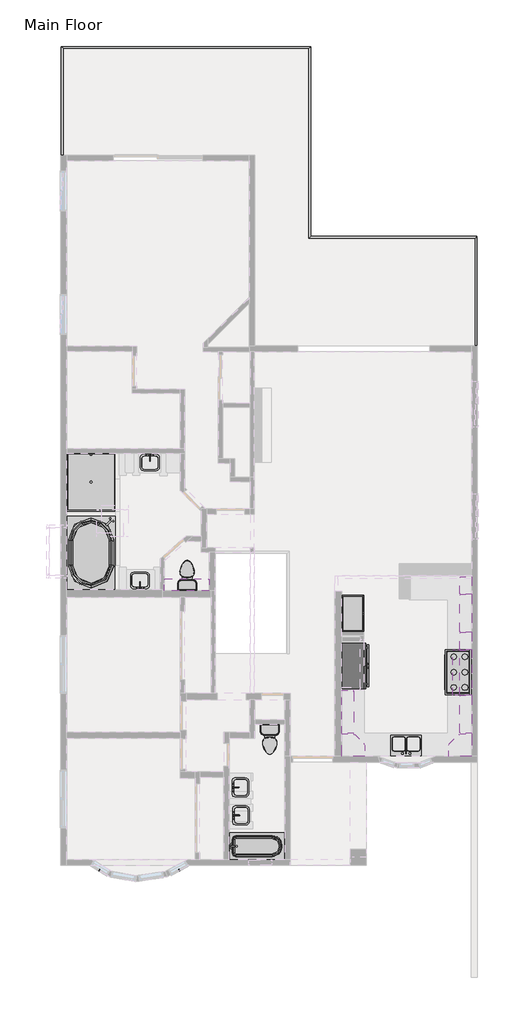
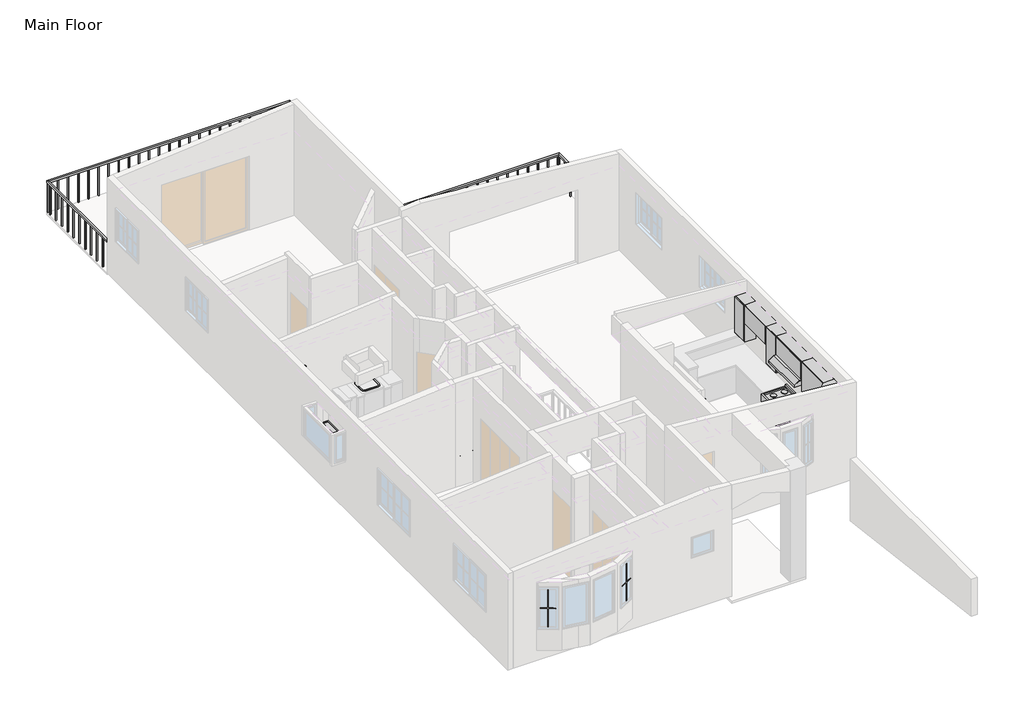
# One storey, part 4 of 5: 11 flow terminals, 10 furniture elements, 5 proxies, 1 railing.
"""IFC4 building model written with IfcOpenShell, lengths in millimetres."""

from ifc_helpers import new_model, si_unit, origin, origin_with_axes, place, context, project, spatial, polyline, outline, extrude, faceted_brep, transform, mapped, element, save
from components import exhaust_hood_default_1_8daebe1e, fridge_default_1_27ad7765, muntin_pattern_2x2_muntin_pattern_2x2_2ad6a7fc, stove_6_default_1_31393170, flow_terminal_2d_kitchen_double_sink_default_1_5e0e203f, bath_shower_basin_rectangular_default_1_6c549e84, bath_basin_do_not_use_500_x_440mm_22030706, bath_bathtub_default_1_2fc18997, bath_bathtub_angled_default_1_0dda685f, default_1_a9700879, toilet_default_1_5cb52bd4, toilet_default_1_183bbd19, tall_cabinet_double_door_4_default_1_8bce80c1, furniture_4d8b9883, furniture_f7997885, furniture_770a82d7, furniture_cde854b6, furniture_117c79e4, furniture_55d4882b, furniture_75251511, furniture_355480a0

model = new_model("IFC4")

# Units and contexts
model_context = context("Model", 3, world=origin())
ifc_project = project(units=[si_unit("LENGTHUNIT", "METRE", prefix="MILLI")], contexts=[model_context])

# Site, building, storey
site = spatial("IfcSite", under=ifc_project)
building = spatial("IfcBuilding", under=site)
storey = spatial("IfcBuildingStorey", under=building, Name="Main Floor", Elevation=0.0)

# Proxies
placement = place(None, origin())
exhaust_hood_default_1_shape = exhaust_hood_default_1_8daebe1e(model_context)
element("IfcBuildingElementProxy", 1, Name="Exhaust Hood : Default 1", ObjectType="Exhaust Hood : Default 1", at=placement, inside=storey, context=model_context, shape_type="MappedRepresentation", body=[
    mapped(exhaust_hood_default_1_shape, transform((5068.1259945, -3335.6139357, -381.0), x_axis=(-1.0, 0.0, 0.0), y_axis=(0.0, -1.0, 0.0), z_axis=(0.0, 0.0, 1.0))),
])
fridge_default_1_shape = fridge_default_1_27ad7765(model_context)
element("IfcBuildingElementProxy", 2, Name="Fridge : Default 1", ObjectType="Fridge : Default 1", at=placement, inside=storey, context=model_context, shape_type="MappedRepresentation", body=[
    mapped(fridge_default_1_shape, transform((1523.1244069, -3760.4938544, 0.0), x_axis=(0.0, 1.0, 0.0), y_axis=(-1.0, 0.0, 0.0), z_axis=(0.0, 0.0, 1.0))),
])
muntin_pattern_2x2_muntin_pattern_2x2_shape = muntin_pattern_2x2_muntin_pattern_2x2_2ad6a7fc(model_context)
element("IfcBuildingElementProxy", 3, Name="Muntin Pattern_2x2 : Muntin Pattern_2x2", ObjectType="Muntin Pattern_2x2 : Muntin Pattern_2x2", at=placement, inside=storey, context=model_context, shape_type="MappedRepresentation", body=[
    mapped(muntin_pattern_2x2_muntin_pattern_2x2_shape, transform((-4822.8145112, -9183.7290767, 984.25), x_axis=(-0.8527544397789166, 0.5223120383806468, 0.0), y_axis=(-0.5223120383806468, -0.8527544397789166, 0.0), z_axis=(0.0, 0.0, 1.0))),
])
element("IfcBuildingElementProxy", 4, Name="Muntin Pattern_2x2 : Muntin Pattern_2x2", ObjectType="Muntin Pattern_2x2 : Muntin Pattern_2x2", at=placement, inside=storey, context=model_context, shape_type="MappedRepresentation", body=[
    mapped(muntin_pattern_2x2_muntin_pattern_2x2_shape, transform((-2700.9751957, -9181.5585861, 984.25), x_axis=(-0.8804710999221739, -0.47409982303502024, 0.0), y_axis=(0.47409982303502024, -0.8804710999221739, 0.0), z_axis=(0.0, 0.0, 1.0))),
])
stove_6_default_1_shape = stove_6_default_1_31393170(model_context)
element("IfcBuildingElementProxy", 5, Name="Stove_6 : Default 1", ObjectType="Stove_6 : Default 1", at=placement, inside=storey, context=model_context, shape_type="MappedRepresentation", body=[
    mapped(stove_6_default_1_shape, transform((5060.8244069, -3783.7438544, 0.0), x_axis=(0.0, -1.0, 0.0), y_axis=(1.0, 0.0, 0.0), z_axis=(0.0, 0.0, 1.0))),
])

# Flow terminals
flow_terminal_2d_kitchen_double_sink_default_1_shape = flow_terminal_2d_kitchen_double_sink_default_1_5e0e203f(model_context)
element("IfcFlowTerminal", 6, ObjectType="2D Kitchen-Double Sink : Default 1", at=placement, inside=storey, context=model_context, shape_type="MappedRepresentation", body=[
    mapped(flow_terminal_2d_kitchen_double_sink_default_1_shape, transform((3341.3337898, -5870.2984533, 152.4), x_axis=(-1.0, 0.0, 0.0), y_axis=(0.0, -1.0, 0.0), z_axis=(0.0, 0.0, 1.0))),
])
bath_shower_basin_rectangular_default_1_shape = bath_shower_basin_rectangular_default_1_6c549e84(model_context)
element("IfcFlowTerminal", 7, ObjectType="Bath- Shower - Basin Rectangular : Default 1", at=placement, inside=storey, context=model_context, shape_type="MappedRepresentation", body=[
    mapped(bath_shower_basin_rectangular_default_1_shape, transform((-5042.3755931, 1122.0561456, 0.0), x_axis=(1.0, 0.0, 0.0), y_axis=(0.0, 1.0, 0.0), z_axis=(0.0, 0.0, 1.0))),
])
bath_basin_do_not_use_500_x_440mm_shape = bath_basin_do_not_use_500_x_440mm_22030706(model_context)
element("IfcFlowTerminal", 8, ObjectType="Bath-Basin DO NOT USE : 500 x 440mm", at=placement, inside=storey, context=model_context, shape_type="MappedRepresentation", body=[
    mapped(bath_basin_do_not_use_500_x_440mm_shape, transform((-3728.1113526, -1528.6484533, 152.4), x_axis=(-1.0, 0.0, 0.0), y_axis=(0.0, -1.0, 0.0), z_axis=(0.0, 0.0, 1.0))),
])
element("IfcFlowTerminal", 9, ObjectType="Bath-Basin DO NOT USE : 500 x 440mm", at=placement, inside=storey, context=model_context, shape_type="MappedRepresentation", body=[
    mapped(bath_basin_do_not_use_500_x_440mm_shape, transform((-3495.5148337, 1678.6710886, 152.4), x_axis=(1.0, 0.0, 0.0), y_axis=(0.0, 1.0, 0.0), z_axis=(0.0, 0.0, 1.0))),
])
element("IfcFlowTerminal", 10, ObjectType="Bath-Basin DO NOT USE : 500 x 440mm", at=placement, inside=storey, context=model_context, shape_type="MappedRepresentation", body=[
    mapped(bath_basin_do_not_use_500_x_440mm_shape, transform((-1097.794848, -7743.9999031, 152.4), x_axis=(0.0, 1.0, 0.0), y_axis=(-1.0, 0.0, 0.0), z_axis=(0.0, 0.0, 1.0))),
])
element("IfcFlowTerminal", 11, ObjectType="Bath-Basin DO NOT USE : 500 x 440mm", at=placement, inside=storey, context=model_context, shape_type="MappedRepresentation", body=[
    mapped(bath_basin_do_not_use_500_x_440mm_shape, transform((-1114.8301921, -7002.2830949, 152.4), x_axis=(0.0, 1.0, 0.0), y_axis=(-1.0, 0.0, 0.0), z_axis=(0.0, 0.0, 1.0))),
])
bath_bathtub_default_1_shape = bath_bathtub_default_1_2fc18997(model_context)
element("IfcFlowTerminal", 12, ObjectType="Bath-Bathtub : Default 1", at=placement, inside=storey, context=model_context, shape_type="MappedRepresentation", body=[
    mapped(bath_bathtub_default_1_shape, transform((-261.671823, -8978.5938544, 0.0), x_axis=(1.0, 0.0, 0.0), y_axis=(0.0, 1.0, 0.0), z_axis=(0.0, 0.0, 1.0))),
])
bath_bathtub_angled_default_1_shape = bath_bathtub_angled_default_1_0dda685f(model_context)
element("IfcFlowTerminal", 13, ObjectType="Bath-Bathtub Angled : Default 1", at=placement, inside=storey, context=model_context, shape_type="MappedRepresentation", body=[
    mapped(bath_bathtub_angled_default_1_shape, transform((-5042.3755931, -758.8120538, 0.0), x_axis=(1.0, 0.0, 0.0), y_axis=(0.0, 1.0, 0.0), z_axis=(0.0, 0.0, 1.0))),
])
default_1_shape = default_1_a9700879(model_context)
element("IfcFlowTerminal", 14, ObjectType="Bath-Showerhead : Default 1", at=placement, inside=storey, context=model_context, shape_type="MappedRepresentation", body=[
    mapped(default_1_shape, transform((-5042.3755931, 1892.6061456, 0.0), x_axis=(1.0, 0.0, 0.0), y_axis=(0.0, 1.0, 0.0), z_axis=(0.0, 0.0, 1.0))),
])
toilet_default_1_shape = toilet_default_1_5cb52bd4(model_context)
toilet_default_1_2_shape = toilet_default_1_183bbd19(model_context)
element("IfcFlowTerminal", 15, ObjectType="Toilet : Default 1", at=placement, inside=storey, context=model_context, shape_type="MappedRepresentation", body=[
    mapped(toilet_default_1_shape, transform((-2490.6755931, -1264.297827, 0.0), x_axis=(-1.0, 0.0, 0.0), y_axis=(0.0, -1.0, 0.0), z_axis=(0.0, 0.0, 1.0))),
    mapped(toilet_default_1_2_shape, transform((-2490.6755931, -1264.297827, 0.0), x_axis=(-1.0, 0.0, 0.0), y_axis=(0.0, -1.0, 0.0), z_axis=(0.0, 0.0, 1.0))),
])
element("IfcFlowTerminal", 16, ObjectType="Toilet : Default 1", at=placement, inside=storey, context=model_context, shape_type="MappedRepresentation", body=[
    mapped(toilet_default_1_shape, transform((-296.1505931, -5802.9898817, 0.0), x_axis=(1.0, 0.0, 0.0), y_axis=(0.0, 1.0, 0.0), z_axis=(0.0, 0.0, 1.0))),
    mapped(toilet_default_1_2_shape, transform((-296.1505931, -5802.9898817, 0.0), x_axis=(1.0, 0.0, 0.0), y_axis=(0.0, 1.0, 0.0), z_axis=(0.0, 0.0, 1.0))),
])

# Furniture
tall_cabinet_double_door_4_default_1_shape = tall_cabinet_double_door_4_default_1_8bce80c1(model_context)
element("IfcFurniture", 17, ObjectType="Tall Cabinet-Double Door(4) : Default 1", at=placement, inside=storey, context=model_context, shape_type="MappedRepresentation", body=[
    mapped(tall_cabinet_double_door_4_default_1_shape, transform((1618.3744069, -2386.9815593, 0.0), x_axis=(0.0, 1.0, 0.0), y_axis=(-1.0, 0.0, 0.0), z_axis=(0.0, 0.0, 1.0))),
])
furniture_shape = furniture_4d8b9883(model_context)
element("IfcFurniture", 18, ObjectType="Upper Cabinet-Corner Unit-Wall : 12\" Depth", at=placement, inside=storey, context=model_context, shape_type="MappedRepresentation", body=[
    mapped(furniture_shape, transform((1664.8032441, -6241.7438544, 304.8), x_axis=(1.0, 0.0, 0.0), y_axis=(0.0, 1.0, 0.0), z_axis=(0.0, 0.0, 1.0))),
])
furniture_2_shape = furniture_f7997885(model_context)
element("IfcFurniture", 19, ObjectType="Upper Cabinet-Corner Unit-Wall : 12\" Depth", at=placement, inside=storey, context=model_context, shape_type="MappedRepresentation", body=[
    mapped(furniture_2_shape, transform((5019.9955697, -6241.7438544, 304.8), x_axis=(-1.0, 0.0, 0.0), y_axis=(0.0, -1.0, 0.0), z_axis=(0.0, 0.0, 1.0))),
])
furniture_3_shape = furniture_770a82d7(model_context)
element("IfcFurniture", 20, ObjectType="Upper Cabinet-Single Door-Wall : 24\"", at=placement, inside=storey, context=model_context, shape_type="MappedRepresentation", body=[
    mapped(furniture_3_shape, transform((1523.1244069, -5294.0385817, 0.0), x_axis=(0.0, -1.0, 0.0), y_axis=(1.0, 0.0, 0.0), z_axis=(0.0, 0.0, 1.0))),
])
furniture_4_shape = furniture_cde854b6(model_context)
element("IfcFurniture", 21, ObjectType="Upper Cabinet-Single Door-Wall : 24\"", at=placement, inside=storey, context=model_context, shape_type="MappedRepresentation", body=[
    mapped(furniture_4_shape, transform((5142.6244069, -4800.697332, 304.8), x_axis=(0.0, 1.0, 0.0), y_axis=(-1.0, 0.0, 0.0), z_axis=(0.0, 0.0, 1.0))),
])
furniture_5_shape = furniture_117c79e4(model_context)
element("IfcFurniture", 22, ObjectType="Upper Cabinet-Single Door-Wall : 24\"", at=placement, inside=storey, context=model_context, shape_type="MappedRepresentation", body=[
    mapped(furniture_5_shape, transform((5142.6244069, -3127.6920579, 304.8), x_axis=(0.0, 1.0, 0.0), y_axis=(-1.0, 0.0, 0.0), z_axis=(0.0, 0.0, 1.0))),
])
element("IfcFurniture", 23, ObjectType="Upper Cabinet-Single Door-Wall : 24\"", at=placement, inside=storey, context=model_context, shape_type="MappedRepresentation", body=[
    mapped(furniture_5_shape, transform((5142.6244069, -1653.6983079, 304.8), x_axis=(0.0, 1.0, 0.0), y_axis=(-1.0, 0.0, 0.0), z_axis=(0.0, 0.0, 1.0))),
])
furniture_6_shape = furniture_55d4882b(model_context)
element("IfcFurniture", 24, ObjectType="Upper Cabinet-Single Door-Wall : 24\"", at=placement, inside=storey, context=model_context, shape_type="MappedRepresentation", body=[
    mapped(furniture_6_shape, transform((5142.6244069, -3597.0069838, 304.8), x_axis=(0.0, 1.0, 0.0), y_axis=(-1.0, 0.0, 0.0), z_axis=(0.0, 0.0, 1.0))),
])
furniture_7_shape = furniture_75251511(model_context)
element("IfcFurniture", 25, ObjectType="Upper Cabinet-Single Door-Wall : 24\"", at=placement, inside=storey, context=model_context, shape_type="MappedRepresentation", body=[
    mapped(furniture_7_shape, transform((5142.6244069, -2118.0420579, 304.8), x_axis=(0.0, 1.0, 0.0), y_axis=(-1.0, 0.0, 0.0), z_axis=(0.0, 0.0, 1.0))),
])
furniture_8_shape = furniture_355480a0(model_context)
element("IfcFurniture", 26, ObjectType="Upper Cabinet-Single Door-Wall : 9\"", at=placement, inside=storey, context=model_context, shape_type="MappedRepresentation", body=[
    mapped(furniture_8_shape, transform((-2164.4267547, -1847.5438544, 0.0), x_axis=(1.0, 0.0, 0.0), y_axis=(0.0, 1.0, 0.0), z_axis=(0.0, 0.0, 1.0))),
])

# Railing
element("IfcRailing", 27, ObjectType="900mm Rectangular", at=placement, inside=storey, context=model_context, shape_type="SolidModel", body=[
    faceted_brep([(-5829.7755931, 9804.7061456, 900.0), (-5829.7755931, 9804.7061456, 850.0), (-5779.7755931, 9804.7061456, 850.0), (-5779.7755931, 9804.7061456, 900.0), (5205.7244069, 4737.4061456, 900.0), (5155.7244069, 4737.4061456, 900.0), (5155.7244069, 4737.4061456, 850.0), (5205.7244069, 4737.4061456, 850.0), (-5829.7755931, 12687.2061456, 900.0), (-5829.7755931, 12687.2061456, 850.0), (-5779.7755931, 12637.2061456, 850.0), (-5779.7755931, 12637.2061456, 900.0), (786.1244069, 12687.2061456, 900.0), (786.1244069, 12687.2061456, 850.0), (736.1244069, 12637.2061456, 850.0), (736.1244069, 12637.2061456, 900.0), (786.1244069, 7645.3061456, 900.0), (786.1244069, 7645.3061456, 850.0), (736.1244069, 7595.3061456, 850.0), (736.1244069, 7595.3061456, 900.0), (5205.7244069, 7645.3061456, 900.0), (5205.7244069, 7645.3061456, 850.0), (5155.7244069, 7595.3061456, 850.0), (5155.7244069, 7595.3061456, 900.0)], [[[0, 1, 2, 3]], [[4, 5, 6, 7]], [[1, 0, 8, 9]], [[2, 1, 9, 10]], [[3, 2, 10, 11]], [[0, 3, 11, 8]], [[9, 8, 12, 13]], [[10, 9, 13, 14]], [[11, 10, 14, 15]], [[8, 11, 15, 12]], [[13, 12, 16, 17]], [[14, 13, 17, 18]], [[15, 14, 18, 19]], [[12, 15, 19, 16]], [[17, 16, 20, 21]], [[18, 17, 21, 22]], [[19, 18, 22, 23]], [[16, 19, 23, 20]], [[21, 20, 4, 7]], [[22, 21, 7, 6]], [[23, 22, 6, 5]], [[20, 23, 5, 4]]]),
    extrude(outline(polyline([(5168.2244069, 4882.8061456), (5193.2244069, 4882.8061456), (5193.2244069, 4857.8061456), (5168.2244069, 4857.8061456), (5168.2244069, 4882.8061456)])), origin_with_axes(), (0.0, 0.0, 1.0), 850.0),
    extrude(outline(polyline([(5168.2244069, 5157.8061456), (5193.2244069, 5157.8061456), (5193.2244069, 5132.8061456), (5168.2244069, 5132.8061456), (5168.2244069, 5157.8061456)])), origin_with_axes(), (0.0, 0.0, 1.0), 850.0),
    extrude(outline(polyline([(5168.2244069, 5432.8061456), (5193.2244069, 5432.8061456), (5193.2244069, 5407.8061456), (5168.2244069, 5407.8061456), (5168.2244069, 5432.8061456)])), origin_with_axes(), (0.0, 0.0, 1.0), 850.0),
    extrude(outline(polyline([(5168.2244069, 5707.8061456), (5193.2244069, 5707.8061456), (5193.2244069, 5682.8061456), (5168.2244069, 5682.8061456), (5168.2244069, 5707.8061456)])), origin_with_axes(), (0.0, 0.0, 1.0), 850.0),
    extrude(outline(polyline([(5168.2244069, 5982.8061456), (5193.2244069, 5982.8061456), (5193.2244069, 5957.8061456), (5168.2244069, 5957.8061456), (5168.2244069, 5982.8061456)])), origin_with_axes(), (0.0, 0.0, 1.0), 850.0),
    extrude(outline(polyline([(5168.2244069, 6257.8061456), (5193.2244069, 6257.8061456), (5193.2244069, 6232.8061456), (5168.2244069, 6232.8061456), (5168.2244069, 6257.8061456)])), origin_with_axes(), (0.0, 0.0, 1.0), 850.0),
    extrude(outline(polyline([(5168.2244069, 6532.8061456), (5193.2244069, 6532.8061456), (5193.2244069, 6507.8061456), (5168.2244069, 6507.8061456), (5168.2244069, 6532.8061456)])), origin_with_axes(), (0.0, 0.0, 1.0), 850.0),
    extrude(outline(polyline([(5168.2244069, 6807.8061456), (5193.2244069, 6807.8061456), (5193.2244069, 6782.8061456), (5168.2244069, 6782.8061456), (5168.2244069, 6807.8061456)])), origin_with_axes(), (0.0, 0.0, 1.0), 850.0),
    extrude(outline(polyline([(5168.2244069, 7082.8061456), (5193.2244069, 7082.8061456), (5193.2244069, 7057.8061456), (5168.2244069, 7057.8061456), (5168.2244069, 7082.8061456)])), origin_with_axes(), (0.0, 0.0, 1.0), 850.0),
    extrude(outline(polyline([(5168.2244069, 7357.8061456), (5193.2244069, 7357.8061456), (5193.2244069, 7332.8061456), (5168.2244069, 7332.8061456), (5168.2244069, 7357.8061456)])), origin_with_axes(), (0.0, 0.0, 1.0), 850.0),
    extrude(outline(polyline([(5148.6244069, 7607.8061456), (5148.6244069, 7632.8061456), (5173.6244069, 7632.8061456), (5173.6244069, 7607.8061456), (5148.6244069, 7607.8061456)])), origin_with_axes(), (0.0, 0.0, 1.0), 850.0),
    extrude(outline(polyline([(4873.6244069, 7607.8061456), (4873.6244069, 7632.8061456), (4898.6244069, 7632.8061456), (4898.6244069, 7607.8061456), (4873.6244069, 7607.8061456)])), origin_with_axes(), (0.0, 0.0, 1.0), 850.0),
    extrude(outline(polyline([(4598.6244069, 7607.8061456), (4598.6244069, 7632.8061456), (4623.6244069, 7632.8061456), (4623.6244069, 7607.8061456), (4598.6244069, 7607.8061456)])), origin_with_axes(), (0.0, 0.0, 1.0), 850.0),
    extrude(outline(polyline([(4323.6244069, 7607.8061456), (4323.6244069, 7632.8061456), (4348.6244069, 7632.8061456), (4348.6244069, 7607.8061456), (4323.6244069, 7607.8061456)])), origin_with_axes(), (0.0, 0.0, 1.0), 850.0),
    extrude(outline(polyline([(4048.6244069, 7607.8061456), (4048.6244069, 7632.8061456), (4073.6244069, 7632.8061456), (4073.6244069, 7607.8061456), (4048.6244069, 7607.8061456)])), origin_with_axes(), (0.0, 0.0, 1.0), 850.0),
    extrude(outline(polyline([(3773.6244069, 7607.8061456), (3773.6244069, 7632.8061456), (3798.6244069, 7632.8061456), (3798.6244069, 7607.8061456), (3773.6244069, 7607.8061456)])), origin_with_axes(), (0.0, 0.0, 1.0), 850.0),
    extrude(outline(polyline([(3498.6244069, 7607.8061456), (3498.6244069, 7632.8061456), (3523.6244069, 7632.8061456), (3523.6244069, 7607.8061456), (3498.6244069, 7607.8061456)])), origin_with_axes(), (0.0, 0.0, 1.0), 850.0),
    extrude(outline(polyline([(3223.6244069, 7607.8061456), (3223.6244069, 7632.8061456), (3248.6244069, 7632.8061456), (3248.6244069, 7607.8061456), (3223.6244069, 7607.8061456)])), origin_with_axes(), (0.0, 0.0, 1.0), 850.0),
    extrude(outline(polyline([(2948.6244069, 7607.8061456), (2948.6244069, 7632.8061456), (2973.6244069, 7632.8061456), (2973.6244069, 7607.8061456), (2948.6244069, 7607.8061456)])), origin_with_axes(), (0.0, 0.0, 1.0), 850.0),
    extrude(outline(polyline([(2673.6244069, 7607.8061456), (2673.6244069, 7632.8061456), (2698.6244069, 7632.8061456), (2698.6244069, 7607.8061456), (2673.6244069, 7607.8061456)])), origin_with_axes(), (0.0, 0.0, 1.0), 850.0),
    extrude(outline(polyline([(2398.6244069, 7607.8061456), (2398.6244069, 7632.8061456), (2423.6244069, 7632.8061456), (2423.6244069, 7607.8061456), (2398.6244069, 7607.8061456)])), origin_with_axes(), (0.0, 0.0, 1.0), 850.0),
    extrude(outline(polyline([(2123.6244069, 7607.8061456), (2123.6244069, 7632.8061456), (2148.6244069, 7632.8061456), (2148.6244069, 7607.8061456), (2123.6244069, 7607.8061456)])), origin_with_axes(), (0.0, 0.0, 1.0), 850.0),
    extrude(outline(polyline([(1848.6244069, 7607.8061456), (1848.6244069, 7632.8061456), (1873.6244069, 7632.8061456), (1873.6244069, 7607.8061456), (1848.6244069, 7607.8061456)])), origin_with_axes(), (0.0, 0.0, 1.0), 850.0),
    extrude(outline(polyline([(1573.6244069, 7607.8061456), (1573.6244069, 7632.8061456), (1598.6244069, 7632.8061456), (1598.6244069, 7607.8061456), (1573.6244069, 7607.8061456)])), origin_with_axes(), (0.0, 0.0, 1.0), 850.0),
    extrude(outline(polyline([(1298.6244069, 7607.8061456), (1298.6244069, 7632.8061456), (1323.6244069, 7632.8061456), (1323.6244069, 7607.8061456), (1298.6244069, 7607.8061456)])), origin_with_axes(), (0.0, 0.0, 1.0), 850.0),
    extrude(outline(polyline([(1023.6244069, 7607.8061456), (1023.6244069, 7632.8061456), (1048.6244069, 7632.8061456), (1048.6244069, 7607.8061456), (1023.6244069, 7607.8061456)])), origin_with_axes(), (0.0, 0.0, 1.0), 850.0),
    extrude(outline(polyline([(748.6244069, 7724.7061456), (773.6244069, 7724.7061456), (773.6244069, 7699.7061456), (748.6244069, 7699.7061456), (748.6244069, 7724.7061456)])), origin_with_axes(), (0.0, 0.0, 1.0), 850.0),
    extrude(outline(polyline([(748.6244069, 7999.7061456), (773.6244069, 7999.7061456), (773.6244069, 7974.7061456), (748.6244069, 7974.7061456), (748.6244069, 7999.7061456)])), origin_with_axes(), (0.0, 0.0, 1.0), 850.0),
    extrude(outline(polyline([(748.6244069, 8274.7061456), (773.6244069, 8274.7061456), (773.6244069, 8249.7061456), (748.6244069, 8249.7061456), (748.6244069, 8274.7061456)])), origin_with_axes(), (0.0, 0.0, 1.0), 850.0),
    extrude(outline(polyline([(748.6244069, 8549.7061456), (773.6244069, 8549.7061456), (773.6244069, 8524.7061456), (748.6244069, 8524.7061456), (748.6244069, 8549.7061456)])), origin_with_axes(), (0.0, 0.0, 1.0), 850.0),
    extrude(outline(polyline([(748.6244069, 8824.7061456), (773.6244069, 8824.7061456), (773.6244069, 8799.7061456), (748.6244069, 8799.7061456), (748.6244069, 8824.7061456)])), origin_with_axes(), (0.0, 0.0, 1.0), 850.0),
    extrude(outline(polyline([(748.6244069, 9099.7061456), (773.6244069, 9099.7061456), (773.6244069, 9074.7061456), (748.6244069, 9074.7061456), (748.6244069, 9099.7061456)])), origin_with_axes(), (0.0, 0.0, 1.0), 850.0),
    extrude(outline(polyline([(748.6244069, 9374.7061456), (773.6244069, 9374.7061456), (773.6244069, 9349.7061456), (748.6244069, 9349.7061456), (748.6244069, 9374.7061456)])), origin_with_axes(), (0.0, 0.0, 1.0), 850.0),
    extrude(outline(polyline([(748.6244069, 9649.7061456), (773.6244069, 9649.7061456), (773.6244069, 9624.7061456), (748.6244069, 9624.7061456), (748.6244069, 9649.7061456)])), origin_with_axes(), (0.0, 0.0, 1.0), 850.0),
    extrude(outline(polyline([(748.6244069, 9924.7061456), (773.6244069, 9924.7061456), (773.6244069, 9899.7061456), (748.6244069, 9899.7061456), (748.6244069, 9924.7061456)])), origin_with_axes(), (0.0, 0.0, 1.0), 850.0),
    extrude(outline(polyline([(748.6244069, 10199.7061456), (773.6244069, 10199.7061456), (773.6244069, 10174.7061456), (748.6244069, 10174.7061456), (748.6244069, 10199.7061456)])), origin_with_axes(), (0.0, 0.0, 1.0), 850.0),
    extrude(outline(polyline([(748.6244069, 10474.7061456), (773.6244069, 10474.7061456), (773.6244069, 10449.7061456), (748.6244069, 10449.7061456), (748.6244069, 10474.7061456)])), origin_with_axes(), (0.0, 0.0, 1.0), 850.0),
    extrude(outline(polyline([(748.6244069, 10749.7061456), (773.6244069, 10749.7061456), (773.6244069, 10724.7061456), (748.6244069, 10724.7061456), (748.6244069, 10749.7061456)])), origin_with_axes(), (0.0, 0.0, 1.0), 850.0),
    extrude(outline(polyline([(748.6244069, 11024.7061456), (773.6244069, 11024.7061456), (773.6244069, 10999.7061456), (748.6244069, 10999.7061456), (748.6244069, 11024.7061456)])), origin_with_axes(), (0.0, 0.0, 1.0), 850.0),
    extrude(outline(polyline([(748.6244069, 11299.7061456), (773.6244069, 11299.7061456), (773.6244069, 11274.7061456), (748.6244069, 11274.7061456), (748.6244069, 11299.7061456)])), origin_with_axes(), (0.0, 0.0, 1.0), 850.0),
    extrude(outline(polyline([(748.6244069, 11574.7061456), (773.6244069, 11574.7061456), (773.6244069, 11549.7061456), (748.6244069, 11549.7061456), (748.6244069, 11574.7061456)])), origin_with_axes(), (0.0, 0.0, 1.0), 850.0),
    extrude(outline(polyline([(748.6244069, 11849.7061456), (773.6244069, 11849.7061456), (773.6244069, 11824.7061456), (748.6244069, 11824.7061456), (748.6244069, 11849.7061456)])), origin_with_axes(), (0.0, 0.0, 1.0), 850.0),
    extrude(outline(polyline([(748.6244069, 12124.7061456), (773.6244069, 12124.7061456), (773.6244069, 12099.7061456), (748.6244069, 12099.7061456), (748.6244069, 12124.7061456)])), origin_with_axes(), (0.0, 0.0, 1.0), 850.0),
    extrude(outline(polyline([(748.6244069, 12399.7061456), (773.6244069, 12399.7061456), (773.6244069, 12374.7061456), (748.6244069, 12374.7061456), (748.6244069, 12399.7061456)])), origin_with_axes(), (0.0, 0.0, 1.0), 850.0),
    extrude(outline(polyline([(507.7244069, 12649.7061456), (507.7244069, 12674.7061456), (532.7244069, 12674.7061456), (532.7244069, 12649.7061456), (507.7244069, 12649.7061456)])), origin_with_axes(), (0.0, 0.0, 1.0), 850.0),
    extrude(outline(polyline([(232.7244069, 12649.7061456), (232.7244069, 12674.7061456), (257.7244069, 12674.7061456), (257.7244069, 12649.7061456), (232.7244069, 12649.7061456)])), origin_with_axes(), (0.0, 0.0, 1.0), 850.0),
    extrude(outline(polyline([(-42.2755931, 12649.7061456), (-42.2755931, 12674.7061456), (-17.2755931, 12674.7061456), (-17.2755931, 12649.7061456), (-42.2755931, 12649.7061456)])), origin_with_axes(), (0.0, 0.0, 1.0), 850.0),
    extrude(outline(polyline([(-317.2755931, 12649.7061456), (-317.2755931, 12674.7061456), (-292.2755931, 12674.7061456), (-292.2755931, 12649.7061456), (-317.2755931, 12649.7061456)])), origin_with_axes(), (0.0, 0.0, 1.0), 850.0),
    extrude(outline(polyline([(-592.2755931, 12649.7061456), (-592.2755931, 12674.7061456), (-567.2755931, 12674.7061456), (-567.2755931, 12649.7061456), (-592.2755931, 12649.7061456)])), origin_with_axes(), (0.0, 0.0, 1.0), 850.0),
    extrude(outline(polyline([(-867.2755931, 12649.7061456), (-867.2755931, 12674.7061456), (-842.2755931, 12674.7061456), (-842.2755931, 12649.7061456), (-867.2755931, 12649.7061456)])), origin_with_axes(), (0.0, 0.0, 1.0), 850.0),
    extrude(outline(polyline([(-1142.2755931, 12649.7061456), (-1142.2755931, 12674.7061456), (-1117.2755931, 12674.7061456), (-1117.2755931, 12649.7061456), (-1142.2755931, 12649.7061456)])), origin_with_axes(), (0.0, 0.0, 1.0), 850.0),
    extrude(outline(polyline([(-1417.2755931, 12649.7061456), (-1417.2755931, 12674.7061456), (-1392.2755931, 12674.7061456), (-1392.2755931, 12649.7061456), (-1417.2755931, 12649.7061456)])), origin_with_axes(), (0.0, 0.0, 1.0), 850.0),
    extrude(outline(polyline([(-1692.2755931, 12649.7061456), (-1692.2755931, 12674.7061456), (-1667.2755931, 12674.7061456), (-1667.2755931, 12649.7061456), (-1692.2755931, 12649.7061456)])), origin_with_axes(), (0.0, 0.0, 1.0), 850.0),
    extrude(outline(polyline([(-1967.2755931, 12649.7061456), (-1967.2755931, 12674.7061456), (-1942.2755931, 12674.7061456), (-1942.2755931, 12649.7061456), (-1967.2755931, 12649.7061456)])), origin_with_axes(), (0.0, 0.0, 1.0), 850.0),
    extrude(outline(polyline([(-2242.2755931, 12649.7061456), (-2242.2755931, 12674.7061456), (-2217.2755931, 12674.7061456), (-2217.2755931, 12649.7061456), (-2242.2755931, 12649.7061456)])), origin_with_axes(), (0.0, 0.0, 1.0), 850.0),
    extrude(outline(polyline([(-2517.2755931, 12649.7061456), (-2517.2755931, 12674.7061456), (-2492.2755931, 12674.7061456), (-2492.2755931, 12649.7061456), (-2517.2755931, 12649.7061456)])), origin_with_axes(), (0.0, 0.0, 1.0), 850.0),
    extrude(outline(polyline([(-2792.2755931, 12649.7061456), (-2792.2755931, 12674.7061456), (-2767.2755931, 12674.7061456), (-2767.2755931, 12649.7061456), (-2792.2755931, 12649.7061456)])), origin_with_axes(), (0.0, 0.0, 1.0), 850.0),
    extrude(outline(polyline([(-3067.2755931, 12649.7061456), (-3067.2755931, 12674.7061456), (-3042.2755931, 12674.7061456), (-3042.2755931, 12649.7061456), (-3067.2755931, 12649.7061456)])), origin_with_axes(), (0.0, 0.0, 1.0), 850.0),
    extrude(outline(polyline([(-3342.2755931, 12649.7061456), (-3342.2755931, 12674.7061456), (-3317.2755931, 12674.7061456), (-3317.2755931, 12649.7061456), (-3342.2755931, 12649.7061456)])), origin_with_axes(), (0.0, 0.0, 1.0), 850.0),
    extrude(outline(polyline([(-3617.2755931, 12649.7061456), (-3617.2755931, 12674.7061456), (-3592.2755931, 12674.7061456), (-3592.2755931, 12649.7061456), (-3617.2755931, 12649.7061456)])), origin_with_axes(), (0.0, 0.0, 1.0), 850.0),
    extrude(outline(polyline([(-3892.2755931, 12649.7061456), (-3892.2755931, 12674.7061456), (-3867.2755931, 12674.7061456), (-3867.2755931, 12649.7061456), (-3892.2755931, 12649.7061456)])), origin_with_axes(), (0.0, 0.0, 1.0), 850.0),
    extrude(outline(polyline([(-4167.2755931, 12649.7061456), (-4167.2755931, 12674.7061456), (-4142.2755931, 12674.7061456), (-4142.2755931, 12649.7061456), (-4167.2755931, 12649.7061456)])), origin_with_axes(), (0.0, 0.0, 1.0), 850.0),
    extrude(outline(polyline([(-4442.2755931, 12649.7061456), (-4442.2755931, 12674.7061456), (-4417.2755931, 12674.7061456), (-4417.2755931, 12649.7061456), (-4442.2755931, 12649.7061456)])), origin_with_axes(), (0.0, 0.0, 1.0), 850.0),
    extrude(outline(polyline([(-4717.2755931, 12649.7061456), (-4717.2755931, 12674.7061456), (-4692.2755931, 12674.7061456), (-4692.2755931, 12649.7061456), (-4717.2755931, 12649.7061456)])), origin_with_axes(), (0.0, 0.0, 1.0), 850.0),
    extrude(outline(polyline([(-4992.2755931, 12649.7061456), (-4992.2755931, 12674.7061456), (-4967.2755931, 12674.7061456), (-4967.2755931, 12649.7061456), (-4992.2755931, 12649.7061456)])), origin_with_axes(), (0.0, 0.0, 1.0), 850.0),
    extrude(outline(polyline([(-5267.2755931, 12649.7061456), (-5267.2755931, 12674.7061456), (-5242.2755931, 12674.7061456), (-5242.2755931, 12649.7061456), (-5267.2755931, 12649.7061456)])), origin_with_axes(), (0.0, 0.0, 1.0), 850.0),
    extrude(outline(polyline([(-5542.2755931, 12649.7061456), (-5542.2755931, 12674.7061456), (-5517.2755931, 12674.7061456), (-5517.2755931, 12649.7061456), (-5542.2755931, 12649.7061456)])), origin_with_axes(), (0.0, 0.0, 1.0), 850.0),
    extrude(outline(polyline([(-5792.2755931, 12542.2061456), (-5817.2755931, 12542.2061456), (-5817.2755931, 12567.2061456), (-5792.2755931, 12567.2061456), (-5792.2755931, 12542.2061456)])), origin_with_axes(), (0.0, 0.0, 1.0), 850.0),
    extrude(outline(polyline([(-5792.2755931, 12267.2061456), (-5817.2755931, 12267.2061456), (-5817.2755931, 12292.2061456), (-5792.2755931, 12292.2061456), (-5792.2755931, 12267.2061456)])), origin_with_axes(), (0.0, 0.0, 1.0), 850.0),
    extrude(outline(polyline([(-5792.2755931, 11992.2061456), (-5817.2755931, 11992.2061456), (-5817.2755931, 12017.2061456), (-5792.2755931, 12017.2061456), (-5792.2755931, 11992.2061456)])), origin_with_axes(), (0.0, 0.0, 1.0), 850.0),
    extrude(outline(polyline([(-5792.2755931, 11717.2061456), (-5817.2755931, 11717.2061456), (-5817.2755931, 11742.2061456), (-5792.2755931, 11742.2061456), (-5792.2755931, 11717.2061456)])), origin_with_axes(), (0.0, 0.0, 1.0), 850.0),
    extrude(outline(polyline([(-5792.2755931, 11442.2061456), (-5817.2755931, 11442.2061456), (-5817.2755931, 11467.2061456), (-5792.2755931, 11467.2061456), (-5792.2755931, 11442.2061456)])), origin_with_axes(), (0.0, 0.0, 1.0), 850.0),
    extrude(outline(polyline([(-5792.2755931, 11167.2061456), (-5817.2755931, 11167.2061456), (-5817.2755931, 11192.2061456), (-5792.2755931, 11192.2061456), (-5792.2755931, 11167.2061456)])), origin_with_axes(), (0.0, 0.0, 1.0), 850.0),
    extrude(outline(polyline([(-5792.2755931, 10892.2061456), (-5817.2755931, 10892.2061456), (-5817.2755931, 10917.2061456), (-5792.2755931, 10917.2061456), (-5792.2755931, 10892.2061456)])), origin_with_axes(), (0.0, 0.0, 1.0), 850.0),
    extrude(outline(polyline([(-5792.2755931, 10617.2061456), (-5817.2755931, 10617.2061456), (-5817.2755931, 10642.2061456), (-5792.2755931, 10642.2061456), (-5792.2755931, 10617.2061456)])), origin_with_axes(), (0.0, 0.0, 1.0), 850.0),
    extrude(outline(polyline([(-5792.2755931, 10342.2061456), (-5817.2755931, 10342.2061456), (-5817.2755931, 10367.2061456), (-5792.2755931, 10367.2061456), (-5792.2755931, 10342.2061456)])), origin_with_axes(), (0.0, 0.0, 1.0), 850.0),
    extrude(outline(polyline([(-5792.2755931, 10067.2061456), (-5817.2755931, 10067.2061456), (-5817.2755931, 10092.2061456), (-5792.2755931, 10092.2061456), (-5792.2755931, 10067.2061456)])), origin_with_axes(), (0.0, 0.0, 1.0), 850.0),
    extrude(outline(polyline([(5168.2244069, 7607.8061456), (5168.2244069, 7632.8061456), (5193.2244069, 7632.8061456), (5193.2244069, 7607.8061456), (5168.2244069, 7607.8061456)])), origin_with_axes(), (0.0, 0.0, 1.0), 850.0),
    extrude(outline(polyline([(748.6244069, 7632.8061456), (773.6244069, 7632.8061456), (773.6244069, 7607.8061456), (748.6244069, 7607.8061456), (748.6244069, 7632.8061456)])), origin_with_axes(), (0.0, 0.0, 1.0), 850.0),
    extrude(outline(polyline([(748.6244069, 12649.7061456), (748.6244069, 12674.7061456), (773.6244069, 12674.7061456), (773.6244069, 12649.7061456), (748.6244069, 12649.7061456)])), origin_with_axes(), (0.0, 0.0, 1.0), 850.0),
    extrude(outline(polyline([(-5792.2755931, 12649.7061456), (-5817.2755931, 12649.7061456), (-5817.2755931, 12674.7061456), (-5792.2755931, 12674.7061456), (-5792.2755931, 12649.7061456)])), origin_with_axes(), (0.0, 0.0, 1.0), 850.0),
    extrude(outline(polyline([(5168.2244069, 4762.4061456), (5193.2244069, 4762.4061456), (5193.2244069, 4737.4061456), (5168.2244069, 4737.4061456), (5168.2244069, 4762.4061456)])), origin_with_axes(), (0.0, 0.0, 1.0), 850.0),
    extrude(outline(polyline([(-5792.2755931, 9804.7061456), (-5817.2755931, 9804.7061456), (-5817.2755931, 9829.7061456), (-5792.2755931, 9829.7061456), (-5792.2755931, 9804.7061456)])), origin_with_axes(), (0.0, 0.0, 1.0), 850.0),
])

save(model, "model.ifc")
